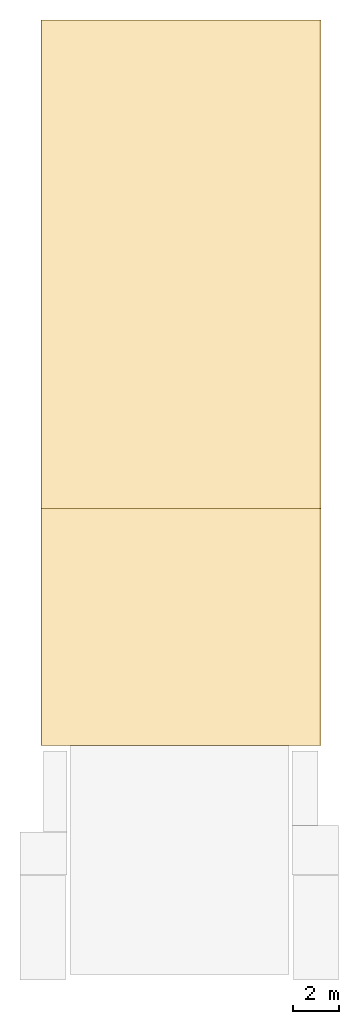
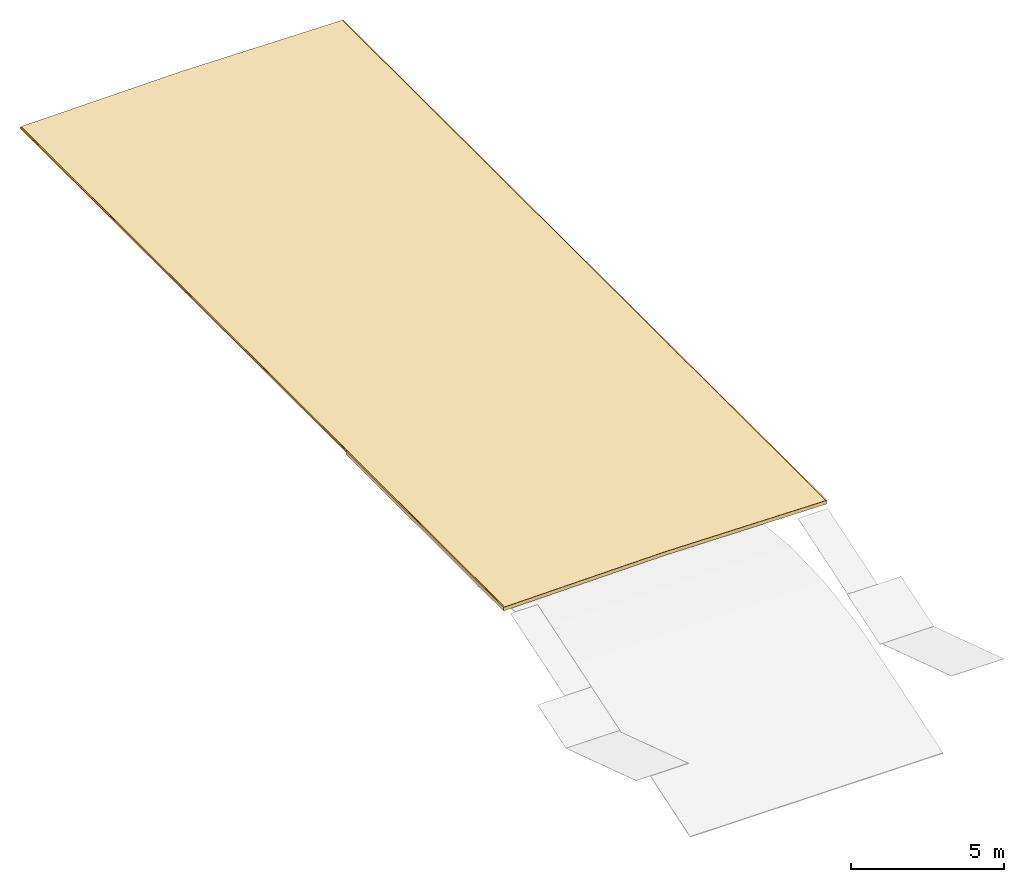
# One storey, part 3 of 3: 3 coverings.
"""IFC2X3 building model written with IfcOpenShell, lengths in millimetres."""

from ifc_helpers import new_model, entity, si_unit, converted_unit, derived_unit, direction, frame, origin, place, context, subcontext, project, spatial, faceted_brep, material, layer, layer_set, layer_usage, type_object, element, save


model = new_model("IFC2X3")

# Units and contexts
model_context = context("Model", 3, precision=0.01, world=origin(), true_north=direction((6.12303176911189e-17, 1.0)))
body_context = subcontext(model_context, "Body", "Model", "MODEL_VIEW")
ifc_project = project(units=[si_unit("LENGTHUNIT", "METRE", prefix="MILLI"), si_unit("AREAUNIT", "SQUARE_METRE"), si_unit("VOLUMEUNIT", "CUBIC_METRE"), converted_unit("PLANEANGLEUNIT", "DEGREE", entity("IfcRatioMeasure", 0.0174532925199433), si_unit("PLANEANGLEUNIT", "RADIAN"), dimensions=[0, 0, 0, 0, 0, 0, 0]), si_unit("MASSUNIT", "GRAM", prefix="KILO"), derived_unit("MASSDENSITYUNIT", [(si_unit("MASSUNIT", "GRAM", prefix="KILO"), 1), (si_unit("LENGTHUNIT", "METRE"), -3)]), derived_unit("MOMENTOFINERTIAUNIT", [(si_unit("LENGTHUNIT", "METRE"), 4)]), si_unit("TIMEUNIT", "SECOND"), si_unit("FREQUENCYUNIT", "HERTZ"), si_unit("THERMODYNAMICTEMPERATUREUNIT", "DEGREE_CELSIUS"), derived_unit("THERMALTRANSMITTANCEUNIT", [(si_unit("MASSUNIT", "GRAM", prefix="KILO"), 1), (si_unit("THERMODYNAMICTEMPERATUREUNIT", "KELVIN"), -1), (si_unit("TIMEUNIT", "SECOND"), -3)]), derived_unit("VOLUMETRICFLOWRATEUNIT", [(si_unit("LENGTHUNIT", "METRE"), 3), (si_unit("TIMEUNIT", "SECOND"), -1)]), si_unit("ELECTRICCURRENTUNIT", "AMPERE"), si_unit("ELECTRICVOLTAGEUNIT", "VOLT"), si_unit("POWERUNIT", "WATT"), si_unit("FORCEUNIT", "NEWTON", prefix="KILO"), si_unit("ILLUMINANCEUNIT", "LUX"), si_unit("LUMINOUSFLUXUNIT", "LUMEN"), si_unit("LUMINOUSINTENSITYUNIT", "CANDELA"), derived_unit("USERDEFINED", [(si_unit("MASSUNIT", "GRAM", prefix="KILO"), -1), (si_unit("LENGTHUNIT", "METRE"), -2), (si_unit("TIMEUNIT", "SECOND"), 3), (si_unit("LUMINOUSFLUXUNIT", "LUMEN"), 1)]), derived_unit("LINEARVELOCITYUNIT", [(si_unit("LENGTHUNIT", "METRE"), 1), (si_unit("TIMEUNIT", "SECOND"), -1)]), si_unit("PRESSUREUNIT", "PASCAL"), derived_unit("USERDEFINED", [(si_unit("LENGTHUNIT", "METRE"), -2), (si_unit("MASSUNIT", "GRAM", prefix="KILO"), 1), (si_unit("TIMEUNIT", "SECOND"), -2)]), derived_unit("LINEARFORCEUNIT", [(si_unit("MASSUNIT", "GRAM", prefix="KILO"), 1), (si_unit("LENGTHUNIT", "METRE"), 1), (si_unit("TIMEUNIT", "SECOND"), -2), (si_unit("LENGTHUNIT", "METRE"), -1)]), derived_unit("PLANARFORCEUNIT", [(si_unit("MASSUNIT", "GRAM", prefix="KILO"), 1), (si_unit("LENGTHUNIT", "METRE"), 1), (si_unit("TIMEUNIT", "SECOND"), -2), (si_unit("LENGTHUNIT", "METRE"), -2)])], contexts=[model_context])

# Site, building, storey
site_placement = place(None, origin())
site = spatial("IfcSite", under=ifc_project, at=site_placement, Name="Default", CompositionType="ELEMENT")
building_placement = place(site_placement, origin())
building = spatial("IfcBuilding", under=site, at=building_placement, Name="-", CompositionType="ELEMENT")
storey_placement = place(building_placement, frame((0.0, 0.0, 18000.0)))
storey = spatial("IfcBuildingStorey", under=building, at=storey_placement, Name="06 zesde verdieping", CompositionType="ELEMENT", Elevation=18000.0000000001)

# Coverings
ifc_material_1 = material(Name="NLRS_n7_isolatie PIR_gen")
ifc_layer_1 = layer(ifc_material_1, 142.0)
ifc_layer_set_1 = layer_set([ifc_layer_1], Name="Basic Roof:NLRS_47_PIR dakisolatie 142mm")
ifc_layer_usage_1 = layer_usage(ifc_layer_set_1, "AXIS3", "NEGATIVE", 0.0)
covering_type_1 = type_object("IfcCoveringType", Name="Basic Roof:NLRS_47_PIR dakisolatie 142mm", PredefinedType="NOTDEFINED")
covering_1_placement = place(storey_placement, frame((28682.9130607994, 10431.124095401, -11816.4105747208)))
element("IfcCovering", 1, at=covering_1_placement, inside=storey, type_object=covering_type_1, material=ifc_layer_usage_1, Name="Basic Roof:NLRS_47_PIR dakisolatie 142mm", ObjectType="Basic Roof:NLRS_47_PIR dakisolatie 142mm", PredefinedType="NOTDEFINED", context=body_context, shape_type="Brep", body=[
    faceted_brep([(12228.5209620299, 0.0, 142.01362842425), (6099.08283304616, 0.0, 226.936512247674), (0.0, 0.0, 142.434198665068), (0.0, 0.0, 0.420570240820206), (6099.08283304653, 0.0, 84.9228838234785), (12228.5209620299, 0.0, 0.0), (12228.5209620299, 10330.1961550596, 142.01362842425), (12228.5209620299, 10330.1961550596, 0.0), (6099.08283304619, 10330.1961550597, 84.9228838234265), (0.0, 10330.1961550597, 0.420570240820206), (0.0, 10330.1961550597, 142.434198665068), (40.0, 10330.1961550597, 142.988395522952), (6099.08283304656, 10330.1961550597, 226.936512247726), (12188.5209620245, 10330.1961550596, 142.567825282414), (12228.5209620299, 110.776608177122, 142.01362842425), (0.0, 110.776608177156, 142.434198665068)], [[[0, 1, 2, 3, 4, 5]], [[6, 7, 8, 9, 10, 11, 12, 13]], [[1, 0, 14, 6, 13, 12]], [[2, 1, 12, 11, 10, 15]], [[3, 2, 15, 10, 9]], [[4, 3, 9, 8]], [[5, 4, 8, 7]], [[0, 5, 7, 6, 14]]]),
])
ifc_material_2 = material(Name="NLRS_n2_bitumen_dak bedekking")
ifc_layer_2 = layer(ifc_material_2, 6.0)
ifc_layer_set_2 = layer_set([ifc_layer_2], Name="Basic Roof:47.11_2 laagse Bitumen dakbedekking")
ifc_layer_usage_2 = layer_usage(ifc_layer_set_2, "AXIS3", "NEGATIVE", 0.0)
covering_type_2 = type_object("IfcCoveringType", Name="Basic Roof:47.11_2 laagse Bitumen dakbedekking", PredefinedType="NOTDEFINED")
covering_2_placement = place(storey_placement, frame((28722.9130607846, 10431.124095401, -11673.8430127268)))
element("IfcCovering", 2, at=covering_2_placement, inside=storey, type_object=covering_type_2, material=ifc_layer_usage_2, Name="Basic Roof:47.11_2 laagse Bitumen dakbedekking", ObjectType="Basic Roof:47.11_2 laagse Bitumen dakbedekking", PredefinedType="NOTDEFINED", context=body_context, shape_type="Brep", body=[
    faceted_brep([(12148.4984025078, 0.0, 6.0005758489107), (6059.0828330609, 0.0, 90.3689502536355), (0.0, 0.0, 6.42083352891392), (0.0, 0.0, 0.420257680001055), (6059.08283306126, 0.0, 84.3683744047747), (12148.4984025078, 0.0, 0.0), (12148.4984025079, 31669.2859982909, 6.0005758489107), (12148.4984025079, 31669.2859982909, 0.0), (6059.082833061, 31669.285998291, 84.3683744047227), (0.0, 31669.285998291, 0.420257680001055), (0.0, 31669.285998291, 6.42083352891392), (6059.08283306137, 31669.285998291, 90.3689502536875)], [[[0, 1, 2, 3, 4, 5]], [[6, 7, 8, 9, 10, 11]], [[1, 0, 6, 11]], [[2, 1, 11, 10]], [[3, 2, 10, 9]], [[4, 3, 9, 8]], [[5, 4, 8, 7]], [[0, 5, 7, 6]]]),
])
ifc_layer_3 = layer(ifc_material_1, 50.0)
ifc_layer_set_3 = layer_set([ifc_layer_3], Name="Basic Roof:NLRS_47_PIR dakisolatie 50mm")
ifc_layer_usage_3 = layer_usage(ifc_layer_set_3, "AXIS3", "NEGATIVE", 0.0)
covering_type_3 = type_object("IfcCoveringType", Name="Basic Roof:NLRS_47_PIR dakisolatie 50mm", PredefinedType="NOTDEFINED")
covering_3_placement = place(storey_placement, frame((28682.9130607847, 20761.3202504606, -11726.4017450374)))
element("IfcCovering", 3, at=covering_3_placement, inside=storey, type_object=covering_type_3, material=ifc_layer_usage_3, Name="Basic Roof:NLRS_47_PIR dakisolatie 50mm", ObjectType="Basic Roof:NLRS_47_PIR dakisolatie 50mm", PredefinedType="NOTDEFINED", context=body_context, shape_type="Brep", body=[
    faceted_brep([(12228.5209620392, 0.0, 50.0047987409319), (12188.5209620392, 0.0, 50.5589955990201), (6099.08283306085, 0.0, 134.927682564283), (40.0, 0.0, 50.9795658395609), (0.0, 0.0, 50.4253689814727), (0.0, 0.0, 0.420570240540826), (6099.08283306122, 0.0, 84.9228838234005), (12228.5209620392, 0.0, 0.0), (12228.5209620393, 21339.0898432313, 50.0047987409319), (12228.5209620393, 21339.0898432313, 48.4017450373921), (12228.5209620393, 21339.0898432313, 0.0), (6099.08283306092, 21339.0898432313, 84.9228838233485), (0.0, 21339.0898432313, 0.420570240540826), (0.0, 21339.0898432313, 48.4017450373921), (0.0, 21339.0898432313, 50.4253689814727), (40.0, 21339.0898432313, 50.9795658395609), (6099.08283306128, 21339.0898432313, 134.927682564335), (12188.5209620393, 21339.0898432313, 50.5589955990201)], [[[0, 1, 2, 3, 4, 5, 6, 7]], [[8, 9, 10, 11, 12, 13, 14, 15, 16, 17]], [[2, 1, 0, 8, 17, 16]], [[4, 3, 2, 16, 15, 14]], [[5, 4, 14, 13, 12]], [[6, 5, 12, 11]], [[7, 6, 11, 10]], [[0, 7, 10, 9, 8]]]),
])

save(model, "model.ifc")
